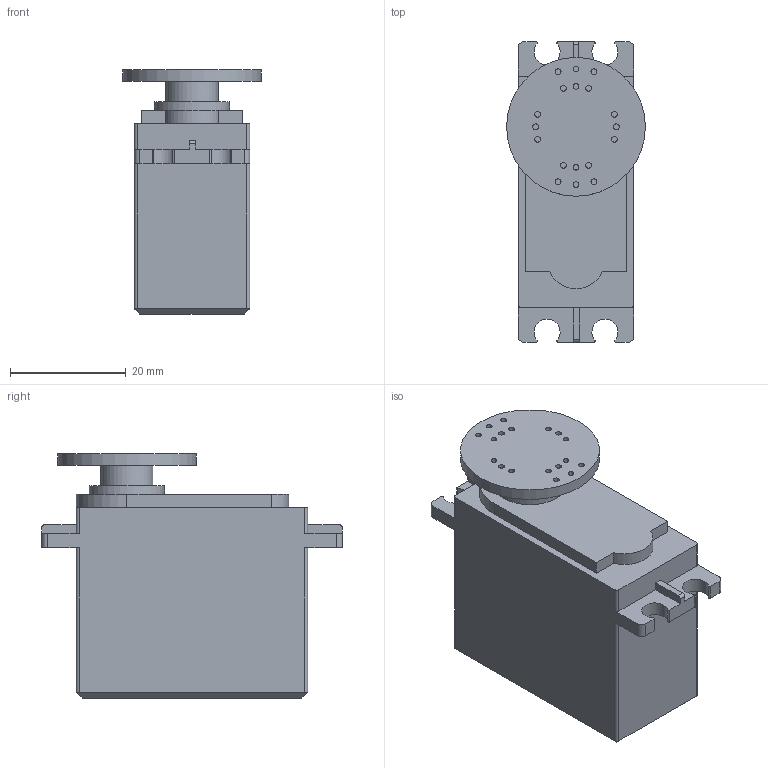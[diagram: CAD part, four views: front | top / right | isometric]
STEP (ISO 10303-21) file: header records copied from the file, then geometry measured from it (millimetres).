
FILE_DESCRIPTION(/* description */ ('Alibre Inc.'),/* implementation_level */ '2;1');
FILE_NAME(/* name */ 'export0',/* time_stamp */ '2013-08-09T11:01:14-06:00',/* author */ (''),/* organization */ (''),/* preprocessor_version */ 'ST-DEVELOPER v14',/* originating_system */ 'Alibre',/* authorisation */ '');
FILE_SCHEMA (('ALIBRE_SCHEMA','CONFIG_CONTROL_DESIGN'));
Length unit declared in the file: centimetre
Products named in the file (1): ID_1
Bounding box: 24 x 52 x 42.25 mm (x, y, z)
Volume: 29399.3 mm3; surface area: 7377.1 mm2
Topology: 1 solids, 1 shells, 87 faces, 263 edges, 181 vertices
Faces by surface type: cylinder 49, plane 38
Full cylindrical faces by diameter (mm): 1 x18, 9 x1, 13 x1, 24 x1
Entity records: 6360 total; most frequent: CARTESIAN_POINT 822, DIRECTION 613, ORIENTED_EDGE 448, CONSTRAINTPAIRUV 443, REFERENCEDEPENDENTUV 327, REFERENCEPOINTUV 273, VECTOR 272, PERSISTANTTOPOLOGYATTRIBUTE 262
